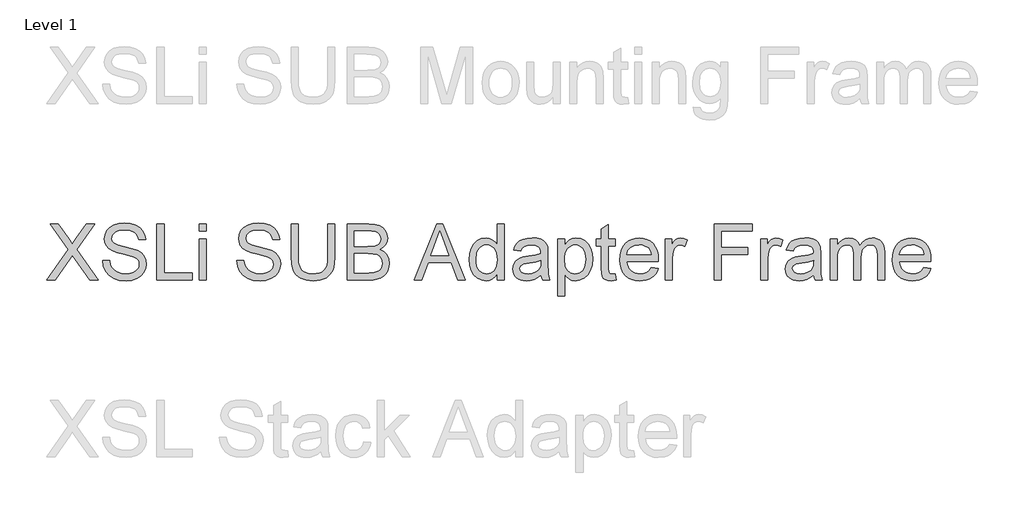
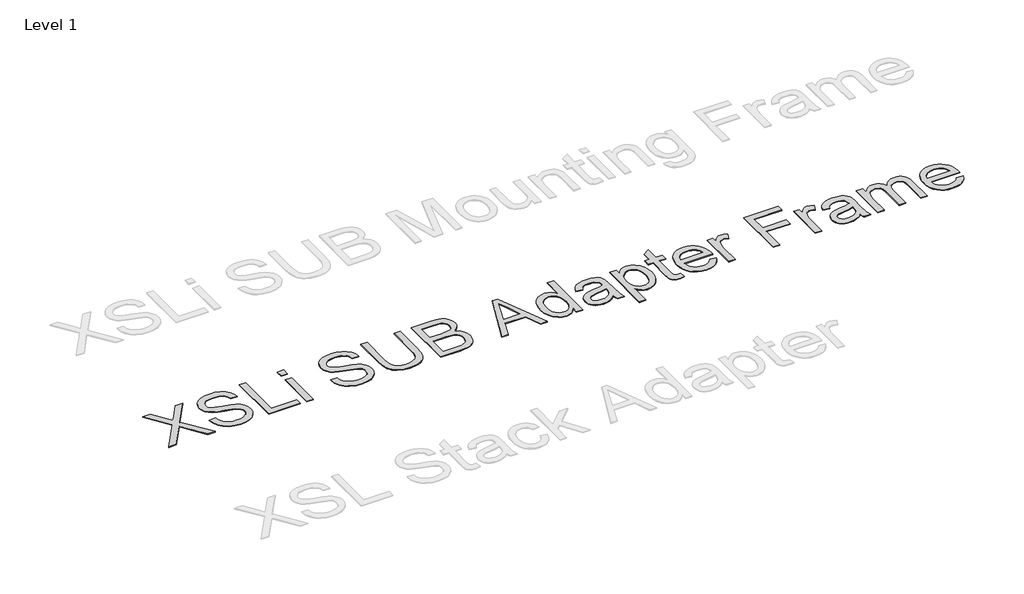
# One storey, part 28 of 52: 1 proxy.
"""IFC4 building model written with IfcOpenShell, lengths in millimetres."""

import ifcopenshell
import ifcopenshell.guid

model = None  # the IFC model being written
_history = None  # IfcOwnerHistory: only IFC2X3 demands one
_inside = {}  # id of a spatial element -> (the spatial element, [elements in it])
_under = {}  # id of a project, library or spatial element -> (it, [spatial elements below it])
_declared = {}  # id of a project -> (the project, [libraries it declares])
_typed = {}  # id of a type object -> (the type object, [elements of that type])
_made_of = {}  # id of a material, layer set ... -> (it, [elements and type objects made of it])


def new_model(schema):
    """Start an empty IFC model of exactly this schema.

    Asked for "IFC4X3", IfcOpenShell would pick the latest addendum, in which some entities
    have other attributes; the version numbers below select the first issue.
    IFC2X3 requires an IfcOwnerHistory on every rooted entity: one is made here for all.
    """
    global model, _history
    if schema == "IFC4X3":
        model = ifcopenshell.file(schema_version=(4, 3, 0, 0))
    else:
        model = ifcopenshell.file(schema=schema)
    _inside.clear()
    _under.clear()
    _declared.clear()
    _typed.clear()
    _made_of.clear()
    _history = None
    if model.schema == "IFC2X3":
        org = make("IfcOrganization", Name="unknown")
        user = make(
            "IfcPersonAndOrganization",
            ThePerson=make("IfcPerson", FamilyName="unknown"),
            TheOrganization=org,
        )
        app = make(
            "IfcApplication",
            ApplicationDeveloper=org,
            Version="unknown",
            ApplicationFullName="unknown",
            ApplicationIdentifier="unknown",
        )
        _history = make(
            "IfcOwnerHistory",
            OwningUser=user,
            OwningApplication=app,
            ChangeAction="ADDED",
            CreationDate=0,
        )
    return model


def make(cls, **values):
    """One entity of the class cls with the attributes given. An attribute that is None is left unset."""
    return model.create_entity(
        cls, **{name: value for name, value in values.items() if value is not None}
    )


def rooted(cls, **values):
    """An entity with a GlobalId (a new one), such as an element, a storey or a relation."""
    return make(cls, GlobalId=ifcopenshell.guid.new(), OwnerHistory=_history, **values)


def si_unit(unit_type, name, prefix=None):
    """IfcSIUnit, for example si_unit("LENGTHUNIT", "METRE", prefix="MILLI")."""
    return make("IfcSIUnit", UnitType=unit_type, Prefix=prefix, Name=name)


def assignment(units):
    """IfcUnitAssignment: the units of a project."""
    return None if units is None else make("IfcUnitAssignment", Units=units)


def point(xyz):
    """IfcCartesianPoint."""
    return None if xyz is None else make("IfcCartesianPoint", Coordinates=xyz)


def direction(xyz):
    """IfcDirection."""
    return None if xyz is None else make("IfcDirection", DirectionRatios=xyz)


def frame(location, z_axis=None, x_axis=None):
    """IfcAxis2Placement3D, a coordinate frame: its origin and axes. An axis left out is left unset."""
    return make(
        "IfcAxis2Placement3D",
        Location=point(location),
        Axis=direction(z_axis),
        RefDirection=direction(x_axis),
    )


def origin():
    """The frame at (0, 0, 0) with its axes left unset."""
    return frame((0.0, 0.0, 0.0))


def origin_with_axes():
    """The frame at (0, 0, 0) with the z axis (0, 0, 1) and the x axis (1, 0, 0) written out."""
    return frame((0.0, 0.0, 0.0), z_axis=(0.0, 0.0, 1.0), x_axis=(1.0, 0.0, 0.0))


def place(relative_to, where):
    """IfcLocalPlacement: puts the frame where relative to a parent placement (None: the world)."""
    return make(
        "IfcLocalPlacement", PlacementRelTo=relative_to, RelativePlacement=where
    )


def context(
    kind, dimensions, precision=None, world=None, true_north=None, identifier=None
):
    """IfcGeometricRepresentationContext, for example the 3D "Model" context."""
    return make(
        "IfcGeometricRepresentationContext",
        ContextIdentifier=identifier,
        ContextType=kind,
        CoordinateSpaceDimension=dimensions,
        Precision=precision,
        WorldCoordinateSystem=world,
        TrueNorth=true_north,
    )


def project(units=None, contexts=None):
    """IfcProject with its units and contexts."""
    return rooted(
        "IfcProject",
        Name="project",
        RepresentationContexts=contexts,
        UnitsInContext=assignment(units),
    )


def spatial(cls, under=None, at=None, **own):
    """A site, building, storey or space (cls), placed at a placement, below another one or the project."""
    s = rooted(cls, ObjectPlacement=at, **own)
    if under is not None:
        _under.setdefault(under.id(), (under, []))[1].append(s)
    return s


def polyline(points):
    """IfcPolyline through the points."""
    return make("IfcPolyline", Points=[point(p) for p in points])


def outline(outer, holes=None, kind="AREA"):
    """IfcArbitraryClosedProfileDef: a profile drawn as a closed curve; with holes, ...WithVoids."""
    if holes is None:
        return make("IfcArbitraryClosedProfileDef", ProfileType=kind, OuterCurve=outer)
    return make(
        "IfcArbitraryProfileDefWithVoids",
        ProfileType=kind,
        OuterCurve=outer,
        InnerCurves=holes,
    )


def extrude(swept, where, along, depth):
    """IfcExtrudedAreaSolid: the profile swept, set in the frame where, extruded along a direction by depth."""
    return make(
        "IfcExtrudedAreaSolid",
        SweptArea=swept,
        Position=where,
        ExtrudedDirection=direction(along),
        Depth=depth,
    )


def shape(context_of_items, identifier, shape_type, items):
    """IfcShapeRepresentation: the items that make up one representation, for example the "Body"."""
    return make(
        "IfcShapeRepresentation",
        ContextOfItems=context_of_items,
        RepresentationIdentifier=identifier,
        RepresentationType=shape_type,
        Items=items,
    )


def made_of(thing, what):
    """Note that an element or type object is made of a material, layer set ...; save() writes the relation."""
    if what is not None:
        _made_of.setdefault(what.id(), (what, []))[1].append(thing)
    return thing


def element(
    cls,
    number,
    at=None,
    inside=None,
    cuts=None,
    type_object=None,
    material=None,
    context=None,
    identifier="Body",
    shape_type=None,
    held_by="IfcProductDefinitionShape",
    body=None,
    shapes=None,
    **own,
):
    """One element of the class cls, such as IfcWall. Its Tag is "e" and its number.

    at: its placement. inside: the storey or other place that contains it. cuts: it is an
    opening in that element (IfcRelVoidsElement). A single representation is given by context,
    identifier, shape_type and body (its items); several are given by shapes. held_by: the class
    of the entity that holds the representations. save() writes the other relations.
    """
    e = rooted(cls, Tag="e%d" % number, ObjectPlacement=at, **own)
    if body is not None:
        shapes = [shape(context, identifier, shape_type, body)]
    if shapes is not None:
        e.Representation = make(held_by, Representations=shapes)
    if inside is not None:
        _inside.setdefault(inside.id(), (inside, []))[1].append(e)
    if cuts is not None:
        rooted(
            "IfcRelVoidsElement", RelatingBuildingElement=cuts, RelatedOpeningElement=e
        )
    if type_object is not None:
        _typed.setdefault(type_object.id(), (type_object, []))[1].append(e)
    return made_of(e, material)


def aggregate(whole, parts):
    """IfcRelAggregates: a whole, such as a stair, and the parts it consists of."""
    return rooted("IfcRelAggregates", RelatingObject=whole, RelatedObjects=parts)


def save(model, path):
    """Write the relations noted so far, then the file.

    IfcRelAggregates (storeys below a building ...), IfcRelContainedInSpatialStructure (elements
    in a storey), IfcRelDefinesByType, IfcRelAssociatesMaterial and IfcRelDeclares: one each for
    every whole, place, type object, material and project.
    """
    for whole, parts in _under.values():
        aggregate(whole, parts)
    for where, things in _inside.values():
        rooted(
            "IfcRelContainedInSpatialStructure",
            RelatedElements=things,
            RelatingStructure=where,
        )
    for kind, things in _typed.values():
        rooted("IfcRelDefinesByType", RelatedObjects=things, RelatingType=kind)
    for what, things in _made_of.values():
        rooted("IfcRelAssociatesMaterial", RelatedObjects=things, RelatingMaterial=what)
    for by, libraries in _declared.values():
        rooted("IfcRelDeclares", RelatingContext=by, RelatedDefinitions=libraries)
    model.write(path)


model = new_model("IFC4")

# Units and contexts
model_context = context("Model", 3, world=origin())
ifc_project = project(units=[si_unit("LENGTHUNIT", "METRE", prefix="MILLI")], contexts=[model_context])

# Site, building, storey
site = spatial("IfcSite", under=ifc_project)
building = spatial("IfcBuilding", under=site)
storey = spatial("IfcBuildingStorey", under=building, Name="Level 1", Elevation=0.0)

# Proxy
placement = place(None, origin())
element("IfcBuildingElementProxy", 1, Name="400mm Arial", ObjectType="400mm Arial", at=placement, inside=storey, context=model_context, shape_type="SweptSolid", body=[
    extrude(outline(polyline([(8004.9788586, -66122.6117308), (8159.881704, -65903.6483673), (8030.0929361, -65720.7864902), (8090.3274814, -65720.7864902), (8163.4133711, -65823.695347), (8188.0369394, -65863.81901), (8216.8788878, -65823.008634), (8289.1799626, -65720.7864902), (8350.2974247, -65720.7864902), (8220.5086568, -65904.2369785), (8375.4115022, -66122.6117308), (8315.1769569, -66122.6117308), (8211.9737945, -65977.0285626), (8190.489486, -65946.8131881), (8166.8469364, -65979.9716186), (8066.0963207, -66122.6117308), (8004.9788586, -66122.6117308)])), origin_with_axes(), (0.0, 0.0, 1.0), 5.0),
    extrude(outline(polyline([(8406.8040992, -65984.4843044), (8457.0322542, -65984.4843044), (8462.7957388, -66012.3574969), (8473.219062, -66034.7615104), (8489.4794462, -66052.5424735), (8512.7541138, -66066.5465148), (8541.2036547, -66075.6332001), (8572.9886591, -66078.6620952), (8600.9722162, -66076.3689641), (8625.4731571, -66069.4895707), (8645.3265221, -66058.6002637), (8659.3673516, -66044.2773913), (8667.7182729, -66027.8330662), (8670.5019133, -66010.5794006), (8668.4172487, -65993.7671934), (8662.1632547, -65979.2358546), (8649.4590632, -65966.8382314), (8628.0238056, -65956.4271709), (8554.8888649, -65937.2482562), (8506.8802646, -65924.5563274), (8476.162118, -65912.4775352), (8451.158405, -65895.5794889), (8433.4387556, -65875.1007245), (8422.8805423, -65851.4827004), (8419.3611379, -65825.166875), (8423.7144082, -65795.7485781), (8436.774219, -65768.316844), (8458.1972139, -65745.0667019), (8487.6400362, -65728.1931811), (8522.9812332, -65717.9292734), (8562.0993521, -65714.5079709), (8604.4793579, -65718.0886889), (8641.561863, -65728.8308432), (8672.0224922, -65746.5137044), (8694.5368703, -65770.9165435), (8708.7861663, -65800.5187813), (8714.451549, -65833.7998392), (8664.2233939, -65833.7998392), (8655.0018186, -65803.8297193), (8646.6386345, -65791.9716563), (8635.773853, -65782.198258), (8605.7301567, -65769.1016589), (8564.0613894, -65764.7361259), (8521.4116034, -65769.052608), (8505.1082996, -65774.4482106), (8492.152722, -65782.0020542), (8475.2301503, -65801.0583416), (8469.589293, -65823.695347), (8473.586944, -65842.996889), (8485.5798971, -65858.5215092), (8513.9313362, -65872.4029232), (8567.5930565, -65886.5786427), (8622.9715595, -65900.0431238), (8656.4733465, -65911.7908221), (8685.1068285, -65930.0132436), (8705.0828208, -65952.5030963), (8716.8182565, -65979.0151254), (8720.7300684, -66009.3040763), (8716.2296453, -66040.2674776), (8702.7283761, -66069.3914689), (8680.7780837, -66094.4564955), (8650.9305912, -66113.2430027), (8615.0375712, -66124.9784383), (8574.9506964, -66128.8902502), (8525.7403482, -66124.67187), (8485.2365405, -66112.0167294), (8452.9732895, -66090.8757774), (8428.4846114, -66061.1999631), (8412.7637875, -66025.0494257), (8406.8040992, -65984.4843044)])), origin_with_axes(), (0.0, 0.0, 1.0), 5.0),
    extrude(outline(polyline([(8796.072301, -66122.6117308), (8796.072301, -65720.7864902), (8846.3004561, -65720.7864902), (8846.3004561, -66072.3835758), (9047.2130764, -66072.3835758), (9047.2130764, -66122.6117308), (8796.072301, -66122.6117308)])), origin_with_axes(), (0.0, 0.0, 1.0), 5.0),
    extrude(outline(polyline([(9097.4412314, -66122.6117308), (9097.4412314, -65827.5213198), (9147.6693865, -65827.5213198), (9147.6693865, -66122.6117308), (9097.4412314, -66122.6117308)])), origin_with_axes(), (0.0, 0.0, 1.0), 5.0),
    extrude(outline(polyline([(9097.4412314, -65771.0146453), (9097.4412314, -65720.7864902), (9147.6693865, -65720.7864902), (9147.6693865, -65771.0146453), (9097.4412314, -65771.0146453)])), origin_with_axes(), (0.0, 0.0, 1.0), 5.0),
    extrude(outline(polyline([(9367.417565, -65984.4843044), (9417.64572, -65984.4843044), (9423.4092046, -66012.3574969), (9433.8325278, -66034.7615104), (9450.092912, -66052.5424735), (9473.3675796, -66066.5465148), (9501.8171205, -66075.6332001), (9533.6021249, -66078.6620952), (9561.585682, -66076.3689641), (9586.0866229, -66069.4895707), (9605.9399879, -66058.6002637), (9619.9808174, -66044.2773913), (9628.3317387, -66027.8330662), (9631.1153791, -66010.5794006), (9629.0307145, -65993.7671934), (9622.7767205, -65979.2358546), (9610.072529, -65966.8382314), (9588.6372714, -65956.4271709), (9515.5023308, -65937.2482562), (9467.4937304, -65924.5563274), (9436.7755838, -65912.4775352), (9411.7718708, -65895.5794889), (9394.0522214, -65875.1007245), (9383.4940081, -65851.4827004), (9379.9746037, -65825.166875), (9384.327874, -65795.7485781), (9397.3876848, -65768.316844), (9418.8106797, -65745.0667019), (9448.253502, -65728.1931811), (9483.594699, -65717.9292734), (9522.7128179, -65714.5079709), (9565.0928237, -65718.0886889), (9602.1753288, -65728.8308432), (9632.635958, -65746.5137044), (9655.1503361, -65770.9165435), (9669.3996321, -65800.5187813), (9675.0650148, -65833.7998392), (9624.8368597, -65833.7998392), (9615.6152844, -65803.8297193), (9607.2521003, -65791.9716563), (9596.3873188, -65782.198258), (9566.3436225, -65769.1016589), (9524.6748552, -65764.7361259), (9482.0250692, -65769.052608), (9465.7217654, -65774.4482106), (9452.7661878, -65782.0020542), (9435.8436161, -65801.0583416), (9430.2027588, -65823.695347), (9434.2004098, -65842.996889), (9446.1933629, -65858.5215092), (9474.544802, -65872.4029232), (9528.2065223, -65886.5786427), (9583.5850253, -65900.0431238), (9617.0868124, -65911.7908221), (9645.7202943, -65930.0132436), (9665.6962866, -65952.5030963), (9677.4317223, -65979.0151254), (9681.3435342, -66009.3040763), (9676.8431111, -66040.2674776), (9663.3418419, -66069.3914689), (9641.3915495, -66094.4564955), (9611.544057, -66113.2430027), (9575.651037, -66124.9784383), (9535.5641622, -66128.8902502), (9486.353814, -66124.67187), (9445.8500063, -66112.0167294), (9413.5867554, -66090.8757774), (9389.0980772, -66061.1999631), (9373.3772533, -66025.0494257), (9367.417565, -65984.4843044)])), origin_with_axes(), (0.0, 0.0, 1.0), 5.0),
    extrude(outline(polyline([(10020.3835809, -65720.7864902), (10070.611736, -65720.7864902), (10070.611736, -65952.6011981), (10067.2026962, -66006.8883179), (10056.9755767, -66048.6919753), (10048.7902023, -66065.6452039), (10037.8702384, -66080.9429635), (10007.8265422, -66106.5720759), (9988.6844157, -66116.3362771), (9966.7709115, -66123.3107066), (9914.6297701, -66128.8902502), (9863.6290628, -66124.0342079), (9822.855475, -66109.4660809), (9806.3007852, -66098.6656786), (9792.2967439, -66085.6886413), (9780.8433511, -66070.5349687), (9771.9406069, -66053.2046611), (9760.4994768, -66009.6351701), (9756.6857668, -65952.6011981), (9756.6857668, -65720.7864902), (9806.9139219, -65720.7864902), (9806.9139219, -65950.8353646), (9809.390994, -65995.9744854), (9816.8222103, -66027.4038705), (9830.2866913, -66049.1702219), (9850.8635576, -66065.3202415), (9877.6944177, -66075.3266317), (9909.9208805, -66078.6620952), (9937.6040007, -66077.0127575), (9961.0074269, -66072.0647447), (9980.1311593, -66063.8180567), (9994.9751978, -66052.2726934), (10006.0913654, -66036.0368346), (10014.0314851, -66013.7186603), (10018.795557, -65985.3181702), (10020.3835809, -65950.8353646), (10020.3835809, -65720.7864902)])), origin_with_axes(), (0.0, 0.0, 1.0), 5.0),
    extrude(outline(polyline([(10158.5110074, -66122.6117308), (10158.5110074, -65720.7864902), (10311.844223, -65720.7864902), (10354.0157624, -65723.7418089), (10386.9412009, -65732.607765), (10412.1779058, -65747.6050877), (10431.2832441, -65768.9545061), (10443.3129853, -65794.0685837), (10447.3228991, -65820.3598836), (10443.9506474, -65844.5542562), (10433.8338926, -65867.3016262), (10416.8990581, -65887.2040421), (10393.0725675, -65902.8635524), (10421.5343712, -65917.725985), (10442.5649586, -65940.338465), (10455.551193, -65969.2049389), (10459.8799378, -66002.8293532), (10456.9246191, -66030.8496985), (10448.0586631, -66056.8344301), (10434.827174, -66078.9318753), (10418.7752562, -66095.2903613), (10399.118095, -66107.1361616), (10375.0708752, -66115.6955493), (10345.8487821, -66120.8826855), (10310.6670006, -66122.6117308), (10158.5110074, -66122.6117308)]), holes=[polyline([(10208.7391625, -66072.3835758), (10311.7461211, -66072.3835758), (10349.02483, -66070.4215385), (10380.5645797, -66059.4831805), (10392.1405998, -66050.0531387), (10401.460277, -66037.1650061), (10407.6039063, -66021.3951312), (10409.6517828, -66003.3198625), (10407.2482871, -65982.3260634), (10400.0378, -65964.2753201), (10387.443973, -65950.1609142), (10368.8904577, -65940.9761271), (10342.6114205, -65935.9361438), (10306.8410278, -65934.2561493), (10208.7391625, -65934.2561493), (10208.7391625, -66072.3835758)]), polyline([(10208.7391625, -65884.0279942), (10300.4644066, -65884.0279942), (10354.0280251, -65879.7115122), (10372.7777441, -65872.2680331), (10386.2544879, -65861.1212087), (10394.38468, -65846.4427171), (10397.094744, -65828.4042366), (10394.568621, -65810.8930536), (10386.9902519, -65795.6382135), (10374.7029932, -65783.7310996), (10358.0502016, -65776.2630951), (10332.4946656, -65772.3267578), (10293.4991742, -65771.0146453), (10208.7391625, -65771.0146453), (10208.7391625, -65884.0279942)])]), origin_with_axes(), (0.0, 0.0, 1.0), 5.0),
    extrude(outline(polyline([(10639.1120459, -66122.6117308), (10799.5085958, -65720.7864902), (10842.2810091, -65720.7864902), (11002.677559, -66122.6117308), (10949.6044498, -66122.6117308), (10903.594675, -65997.0413432), (10738.0968281, -65997.0413432), (10692.1851551, -66122.6117308), (10639.1120459, -66122.6117308)]), holes=[polyline([(10756.5399787, -65946.8131881), (10885.2496261, -65946.8131881), (10849.0500378, -65848.0246096), (10820.8948024, -65771.0146453), (10795.8788268, -65839.3916455), (10756.5399787, -65946.8131881)])]), origin_with_axes(), (0.0, 0.0, 1.0), 5.0),
    extrude(outline(polyline([(11232.1378221, -66122.6117308), (11232.1378221, -66075.2285299), (11217.1098426, -66098.7055325), (11198.9058152, -66115.4748201), (11177.5257399, -66125.5363927), (11152.9696168, -66128.8902502), (11120.4978993, -66124.0342079), (11090.7730341, -66109.4660809), (11065.6099056, -66086.2036761), (11046.8233984, -66055.2648003), (11035.124751, -66017.9002523), (11031.2252018, -65975.3608309), (11034.8181826, -65933.3487071), (11045.5971251, -65895.4078106), (11063.5497665, -65863.6963826), (11088.663844, -65840.3726641), (11119.0386341, -65826.0252663), (11152.773413, -65821.2428004), (11177.3479303, -65824.664103), (11199.0774935, -65834.9280106), (11217.4961187, -65850.6610973), (11232.1378221, -65870.4899368), (11232.1378221, -65720.7864902), (11282.3659772, -65720.7864902), (11282.3659772, -66122.6117308), (11232.1378221, -66122.6117308)]), holes=[polyline([(11081.4533569, -65975.1646272), (11082.8697026, -65999.5214809), (11087.1187396, -66020.5980536), (11094.200468, -66038.3943451), (11104.1148878, -66052.9103555), (11128.8120324, -66072.2241602), (11142.687315, -66077.0526114), (11157.5804044, -66078.6620952), (11172.5440046, -66077.1261878), (11186.3365137, -66072.5184658), (11210.4082589, -66054.0875779), (11219.9149428, -66040.1785728), (11226.7054313, -66023.0260748), (11232.1378221, -65978.9905999), (11226.6073295, -65930.8471095), (11219.6942136, -65912.3119883), (11210.0158515, -65897.4679498), (11198.3141383, -65886.0942648), (11185.3309696, -65877.9702041), (11171.0663452, -65873.0957676), (11155.5202653, -65871.4709555), (11140.3328702, -65873.0313883), (11126.4575876, -65877.7126867), (11113.8944175, -65885.5148506), (11102.6433598, -65896.4378802), (11093.3727335, -65910.7208987), (11086.7508576, -65928.6030293), (11081.4533569, -65975.1646272)])]), origin_with_axes(), (0.0, 0.0, 1.0), 5.0),
    extrude(outline(polyline([(11546.0637913, -66084.9406145), (11522.0656225, -66105.5174808), (11497.3562152, -66118.9819618), (11471.3714836, -66126.4131781), (11443.547342, -66128.8902502), (11421.1831824, -66127.4003281), (11401.5720064, -66122.9305619), (11384.7138139, -66115.4809515), (11370.6086051, -66105.0514969), (11359.4709777, -66092.3043858), (11351.5155295, -66077.9018057), (11346.7422607, -66061.8437566), (11345.151171, -66044.1302385), (11347.5546667, -66023.3081176), (11354.7651538, -66004.3989831), (11365.8874528, -65988.2121753), (11380.0263842, -65975.5570346), (11396.6423876, -65965.9921028), (11415.1959029, -65959.0759213), (11458.6550293, -65951.5220776), (11510.0113558, -65943.5758265), (11545.7694857, -65934.2561493), (11546.0637913, -65923.0725367), (11542.6057006, -65900.6562604), (11532.2314283, -65885.9900315), (11509.0303371, -65875.1007245), (11476.7057725, -65871.4709555), (11446.7847036, -65873.8867139), (11425.8890062, -65881.1339892), (11411.6397103, -65894.5371566), (11401.6578455, -65915.4205912), (11351.4296904, -65909.1420718), (11360.1484937, -65881.6735495), (11373.1592536, -65860.0911391), (11391.6759807, -65843.5855002), (11416.9126856, -65831.3472925), (11447.777985, -65823.7689234), (11483.1804956, -65821.2428004), (11517.1360038, -65823.4746178), (11544.0527031, -65830.1700701), (11564.3475265, -65840.2377741), (11578.4374069, -65852.5863464), (11587.7816096, -65867.8534492), (11593.8393998, -65886.6767446), (11596.2919464, -65930.6263803), (11596.2919464, -65993.1172685), (11598.8425949, -66080.3788778), (11608.8489852, -66122.6117308), (11558.6208301, -66122.6117308), (11550.5764771, -66105.1495988), (11546.0637913, -66084.9406145)]), holes=[polyline([(11546.0637913, -65984.4843044), (11512.3167496, -65992.8474884), (11465.0316505, -65999.8862973), (11421.8177788, -66008.0287521), (11410.5728525, -66013.5960329), (11402.2464567, -66021.2725039), (11397.0961087, -66030.4695538), (11395.3793261, -66040.5985714), (11399.1194597, -66055.5345804), (11410.3398606, -66067.7727881), (11428.795274, -66075.9397684), (11454.2404453, -66078.6620952), (11481.2184583, -66075.6577255), (11505.0572116, -66066.6446166), (11524.3832791, -66053.3640766), (11537.8232346, -66037.5574136), (11543.782923, -66021.2725039), (11545.7694857, -65998.7090749), (11546.0637913, -65984.4843044)])]), origin_with_axes(), (0.0, 0.0, 1.0), 5.0),
    extrude(outline(polyline([(11665.3556596, -66235.6250798), (11665.3556596, -65827.5213198), (11715.5838147, -65827.5213198), (11715.5838147, -65876.7684562), (11731.9668262, -65852.4759818), (11750.3118751, -65835.1242143), (11771.6980817, -65824.7131539), (11797.2045667, -65821.2428004), (11831.1723376, -65826.0988427), (11860.8726773, -65840.6669697), (11885.0547872, -65864.0642646), (11902.4678683, -65895.4078106), (11912.9892933, -65932.4167393), (11916.496435, -65972.8101824), (11912.5355722, -66015.7665367), (11900.6529837, -66054.1856797), (11881.2288144, -66086.1178369), (11854.6432089, -66109.6132337), (11823.6798076, -66124.0709961), (11791.1222511, -66128.8902502), (11768.0315245, -66125.6651514), (11747.41787, -66115.9898549), (11729.771797, -66101.3849397), (11715.5838147, -66083.3709847), (11715.5838147, -66235.6250798), (11665.3556596, -66235.6250798)]), holes=[polyline([(11715.5838147, -65977.4209701), (11721.0162055, -66022.4497263), (11727.806694, -66039.8873329), (11737.3133779, -66053.9404251), (11761.3605976, -66072.4816776), (11775.1224499, -66077.1169908), (11790.0431305, -66078.6620952), (11805.1784089, -66077.0618085), (11819.1916473, -66072.2609484), (11832.0828455, -66064.259515), (11843.8520037, -66053.0575083), (11853.6591245, -66038.4955126), (11860.6642109, -66020.4141126), (11864.8672627, -65998.8133081), (11866.2682799, -65973.6930992), (11860.7991009, -65928.9095977), (11853.9626272, -65911.337101), (11844.391564, -65896.9774405), (11820.3811324, -65877.8475767), (11806.7756299, -65873.0651108), (11792.1032697, -65871.4709555), (11777.4768947, -65873.1662783), (11763.7150424, -65878.2522469), (11738.7849059, -65898.5961212), (11728.6344285, -65913.6946115), (11721.3840875, -65931.8649163), (11717.0338829, -65953.1070359), (11715.5838147, -65977.4209701)])]), origin_with_axes(), (0.0, 0.0, 1.0), 5.0),
    extrude(outline(polyline([(12079.737939, -66080.7222343), (12086.0164584, -66124.0832588), (12048.4434439, -66128.8902502), (12024.3349105, -66126.8055856), (12006.3577437, -66120.5515917), (11993.6535521, -66110.9130834), (11985.3639445, -66098.6748757), (11980.8022078, -66077.656551), (11979.2816289, -66041.6776919), (11979.2816289, -65877.7494749), (11941.6105125, -65877.7494749), (11941.6105125, -65827.5213198), (11979.2816289, -65827.5213198), (11979.2816289, -65755.8088562), (12029.5097839, -65726.2801947), (12029.5097839, -65827.5213198), (12079.737939, -65827.5213198), (12079.737939, -65877.7494749), (12029.5097839, -65877.7494749), (12029.5097839, -66040.2061639), (12032.1585343, -66066.1050564), (12040.7424475, -66075.2775808), (12057.861223, -66078.6620952), (12079.737939, -66080.7222343)])), origin_with_axes(), (0.0, 0.0, 1.0), 5.0),
    extrude(outline(polyline([(12336.5686226, -66034.7124595), (12385.815759, -66040.9909788), (12378.264981, -66060.7155852), (12368.0715841, -66078.0980094), (12355.2355681, -66093.1382517), (12339.7569332, -66105.8363119), (12321.7950948, -66115.9224099), (12301.5094684, -66123.1267656), (12253.9668519, -66128.8902502), (12222.8011156, -66126.4039811), (12195.0321563, -66118.9451736), (12170.6599741, -66106.5138279), (12149.684569, -66089.1099438), (12132.8171795, -66067.2178994), (12120.7690442, -66041.3220726), (12113.540163, -66011.4224635), (12111.1305359, -65977.5190719), (12113.5646885, -65942.4660492), (12120.8671461, -65911.5700929), (12133.0379087, -65884.8312033), (12150.0769765, -65862.2493801), (12170.9971993, -65844.3090015), (12194.8114271, -65831.4944453), (12221.5196599, -65823.8057116), (12251.1218978, -65821.2428004), (12279.7707082, -65823.7995803), (12305.6787977, -65831.4699199), (12328.8461664, -65844.2538192), (12349.2728141, -65862.1512783), (12365.9470656, -65884.6840505), (12377.8572452, -65911.3738892), (12385.0033529, -65942.2207945), (12387.3853888, -65977.2247664), (12387.0910832, -65990.7628238), (12161.358691, -65990.7628238), (12164.2680244, -66010.8062611), (12170.0529688, -66028.3603637), (12178.7135241, -66043.4251314), (12190.2496904, -66056.0005643), (12204.0238054, -66065.914984), (12219.3982071, -66072.9967124), (12254.9478706, -66078.6620952), (12281.6806289, -66076.0378703), (12304.195007, -66068.1651956), (12322.4910049, -66054.5535617), (12336.5686226, -66034.7124595)]), holes=[polyline([(12161.358691, -65940.5346687), (12337.1572338, -65940.5346687), (12330.3636796, -65913.9981141), (12317.0463514, -65895.0154032), (12303.3488784, -65884.7147073), (12287.7629445, -65877.3570674), (12270.2885498, -65872.9424835), (12250.9256941, -65871.4709555), (12217.0682878, -65876.1675823), (12189.072468, -65890.2574627), (12169.6115104, -65912.2200178), (12161.358691, -65940.5346687)])]), origin_with_axes(), (0.0, 0.0, 1.0), 5.0),
    extrude(outline(polyline([(12437.6135439, -66122.6117308), (12437.6135439, -65827.5213198), (12481.5631796, -65827.5213198), (12481.5631796, -65871.1766499), (12497.7990383, -65845.8663686), (12512.7595728, -65830.9548851), (12527.7691582, -65823.6708216), (12544.1521697, -65821.2428004), (12569.1681454, -65825.1178241), (12594.5765285, -65836.7428951), (12577.8011095, -65881.7716513), (12560.1427738, -65874.0461294), (12542.484438, -65871.4709555), (12527.4871153, -65873.9480276), (12514.083948, -65881.3792439), (12503.2559546, -65893.2005187), (12495.9841538, -65908.8477662), (12489.8773127, -65936.9048997), (12487.841699, -65967.5126817), (12487.841699, -66122.6117308), (12437.6135439, -66122.6117308)])), origin_with_axes(), (0.0, 0.0, 1.0), 5.0),
    extrude(outline(polyline([(12789.2106294, -66122.6117308), (12789.2106294, -65720.7864902), (13059.186963, -65720.7864902), (13059.186963, -65771.0146453), (12839.4387845, -65771.0146453), (12839.4387845, -65890.3065136), (13027.794366, -65890.3065136), (13027.794366, -65940.5346687), (12839.4387845, -65940.5346687), (12839.4387845, -66122.6117308), (12789.2106294, -66122.6117308)])), origin_with_axes(), (0.0, 0.0, 1.0), 5.0),
    extrude(outline(polyline([(13121.9721568, -66122.6117308), (13121.9721568, -65827.5213198), (13165.9217925, -65827.5213198), (13165.9217925, -65871.1766499), (13182.1576512, -65845.8663686), (13197.1181857, -65830.9548851), (13212.1277711, -65823.6708216), (13228.5107826, -65821.2428004), (13253.5267583, -65825.1178241), (13278.9351414, -65836.7428951), (13262.1597224, -65881.7716513), (13244.5013867, -65874.0461294), (13226.8430509, -65871.4709555), (13211.8457282, -65873.9480276), (13198.4425609, -65881.3792439), (13187.6145675, -65893.2005187), (13180.3427667, -65908.8477662), (13174.2359256, -65936.9048997), (13172.2003119, -65967.5126817), (13172.2003119, -66122.6117308), (13121.9721568, -66122.6117308)])), origin_with_axes(), (0.0, 0.0, 1.0), 5.0),
    extrude(outline(polyline([(13498.6833199, -66084.9406145), (13474.685151, -66105.5174808), (13449.9757437, -66118.9819618), (13423.9910121, -66126.4131781), (13396.1668705, -66128.8902502), (13373.8027109, -66127.4003281), (13354.1915349, -66122.9305619), (13337.3333425, -66115.4809515), (13323.2281336, -66105.0514969), (13312.0905062, -66092.3043858), (13304.1350581, -66077.9018057), (13299.3617892, -66061.8437566), (13297.7706996, -66044.1302385), (13300.1741953, -66023.3081176), (13307.3846824, -66004.3989831), (13318.5069814, -65988.2121753), (13332.6459127, -65975.5570346), (13349.2619162, -65965.9921028), (13367.8154314, -65959.0759213), (13411.2745578, -65951.5220776), (13462.6308843, -65943.5758265), (13498.3890143, -65934.2561493), (13498.6833199, -65923.0725367), (13495.2252291, -65900.6562604), (13484.8509568, -65885.9900315), (13461.6498657, -65875.1007245), (13429.325301, -65871.4709555), (13399.4042321, -65873.8867139), (13378.5085348, -65881.1339892), (13364.2592388, -65894.5371566), (13354.277374, -65915.4205912), (13304.0492189, -65909.1420718), (13312.7680222, -65881.6735495), (13325.7787821, -65860.0911391), (13344.2955092, -65843.5855002), (13369.5322141, -65831.3472925), (13400.3975135, -65823.7689234), (13435.8000242, -65821.2428004), (13469.7555323, -65823.4746178), (13496.6722316, -65830.1700701), (13516.967055, -65840.2377741), (13531.0569354, -65852.5863464), (13540.4011381, -65867.8534492), (13546.4589283, -65886.6767446), (13548.9114749, -65930.6263803), (13548.9114749, -65993.1172685), (13551.4621234, -66080.3788778), (13561.4685137, -66122.6117308), (13511.2403586, -66122.6117308), (13503.1960057, -66105.1495988), (13498.6833199, -66084.9406145)]), holes=[polyline([(13498.6833199, -65984.4843044), (13464.9362782, -65992.8474884), (13417.6511791, -65999.8862973), (13374.4373074, -66008.0287521), (13363.192381, -66013.5960329), (13354.8659852, -66021.2725039), (13349.7156373, -66030.4695538), (13347.9988546, -66040.5985714), (13351.7389883, -66055.5345804), (13362.9593891, -66067.7727881), (13381.4148025, -66075.9397684), (13406.8599739, -66078.6620952), (13433.8379868, -66075.6577255), (13457.6767401, -66066.6446166), (13477.0028076, -66053.3640766), (13490.4427632, -66037.5574136), (13496.4024515, -66021.2725039), (13498.3890143, -65998.7090749), (13498.6833199, -65984.4843044)])]), origin_with_axes(), (0.0, 0.0, 1.0), 5.0),
    extrude(outline(polyline([(13617.9751882, -66122.6117308), (13617.9751882, -65827.5213198), (13668.2033432, -65827.5213198), (13668.2033432, -65876.0817431), (13683.3110305, -65853.7758315), (13702.7351999, -65836.3014367), (13725.8136637, -65825.0074595), (13751.8842344, -65821.2428004), (13779.8187406, -65825.0810359), (13802.2104914, -65836.5957423), (13818.9368594, -65855.0266303), (13829.8752174, -65879.6134103), (13848.183478, -65854.0762685), (13869.0669126, -65835.8354529), (13892.5255212, -65824.8909635), (13918.5593037, -65821.2428004), (13938.6671204, -65822.7603136), (13956.3162591, -65827.3128533), (13971.5067198, -65834.9004195), (13984.2385026, -65845.5230121), (13994.3031408, -65859.3032585), (14001.4921681, -65876.363786), (14005.8055845, -65896.7045947), (14007.24339, -65920.3256844), (14007.24339, -66122.6117308), (13957.0152349, -66122.6117308), (13957.0152349, -65941.9080948), (13955.8502753, -65916.8553309), (13952.3553963, -65899.9695474), (13945.8070968, -65888.40579), (13935.4818755, -65879.3191047), (13922.2013354, -65873.4329928), (13906.7870798, -65871.4709555), (13879.5760749, -65876.4986761), (13857.3927906, -65891.5818379), (13848.7874176, -65903.1517266), (13842.6407226, -65917.7505105), (13837.7233666, -65956.0347634), (13837.7233666, -66122.6117308), (13787.4952115, -66122.6117308), (13787.4952115, -65936.3162885), (13784.5889438, -65907.9157985), (13775.8701405, -65887.6577633), (13760.5294613, -65875.5176574), (13737.7575658, -65871.4709555), (13718.4069728, -65874.1687568), (13700.5769588, -65882.2621607), (13685.861679, -65895.5549634), (13675.8552887, -65913.8509613), (13670.1163296, -65939.234819), (13668.2033432, -65973.7912011), (13668.2033432, -66122.6117308), (13617.9751882, -66122.6117308)])), origin_with_axes(), (0.0, 0.0, 1.0), 5.0),
    extrude(outline(polyline([(14289.1881511, -66034.7124595), (14338.4352875, -66040.9909788), (14330.8845096, -66060.7155852), (14320.6911126, -66078.0980094), (14307.8550967, -66093.1382517), (14292.3764617, -66105.8363119), (14274.4146233, -66115.9224099), (14254.128997, -66123.1267656), (14206.5863804, -66128.8902502), (14175.4206441, -66126.4039811), (14147.6516848, -66118.9451736), (14123.2795026, -66106.5138279), (14102.3040975, -66089.1099438), (14085.4367081, -66067.2178994), (14073.3885727, -66041.3220726), (14066.1596915, -66011.4224635), (14063.7500645, -65977.5190719), (14066.184217, -65942.4660492), (14073.4866746, -65911.5700929), (14085.6574373, -65884.8312033), (14102.696505, -65862.2493801), (14123.6167278, -65844.3090015), (14147.4309556, -65831.4944453), (14174.1391885, -65823.8057116), (14203.7414264, -65821.2428004), (14232.3902367, -65823.7995803), (14258.2983262, -65831.4699199), (14281.4656949, -65844.2538192), (14301.8923427, -65862.1512783), (14318.5665941, -65884.6840505), (14330.4767737, -65911.3738892), (14337.6228814, -65942.2207945), (14340.0049174, -65977.2247664), (14339.7106118, -65990.7628238), (14113.9782195, -65990.7628238), (14116.887553, -66010.8062611), (14122.6724973, -66028.3603637), (14131.3330527, -66043.4251314), (14142.8692189, -66056.0005643), (14156.6433339, -66065.914984), (14172.0177356, -66072.9967124), (14207.5673991, -66078.6620952), (14234.3001574, -66076.0378703), (14256.8145355, -66068.1651956), (14275.1105334, -66054.5535617), (14289.1881511, -66034.7124595)]), holes=[polyline([(14113.9782195, -65940.5346687), (14289.7767623, -65940.5346687), (14282.9832081, -65913.9981141), (14269.6658799, -65895.0154032), (14255.9684069, -65884.7147073), (14240.3824731, -65877.3570674), (14222.9080783, -65872.9424835), (14203.5452226, -65871.4709555), (14169.6878163, -65876.1675823), (14141.6919965, -65890.2574627), (14122.231039, -65912.2200178), (14113.9782195, -65940.5346687)])]), origin_with_axes(), (0.0, 0.0, 1.0), 5.0),
])

save(model, "model.ifc")
